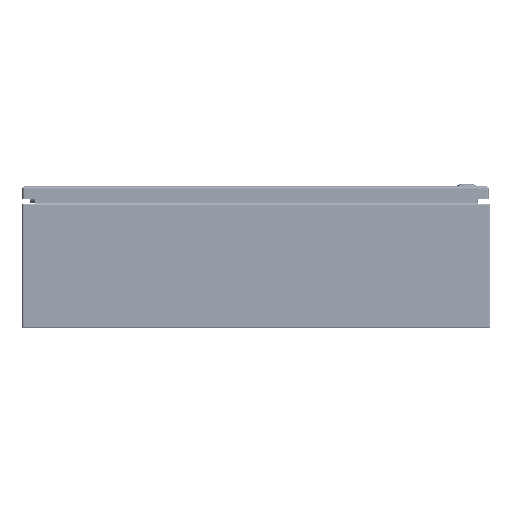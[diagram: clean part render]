
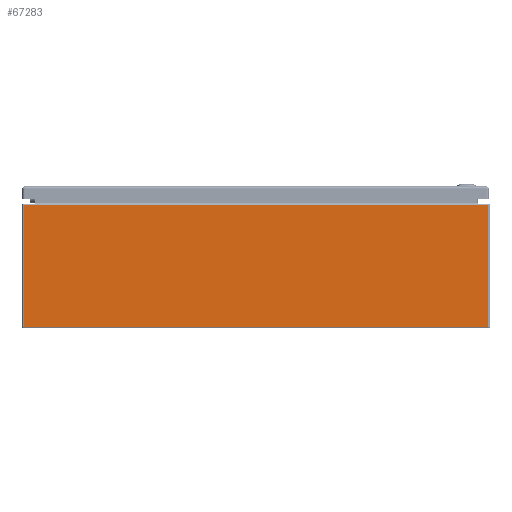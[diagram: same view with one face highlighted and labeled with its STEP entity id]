
A CAD part, front view. The second image highlights one B-rep face of the part: STEP entity #67283.
In plain terms, the highlighted planar face has unit normal (0, -1, 0).
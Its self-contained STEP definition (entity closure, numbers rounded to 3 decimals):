
#6254=LINE('',#95527,#10504);
#6257=LINE('',#95549,#10507);
#6258=LINE('',#95551,#10508);
#6259=LINE('',#95552,#10509);
#10504=VECTOR('',#78724,0.394);
#10507=VECTOR('',#78755,0.394);
#10508=VECTOR('',#78756,0.394);
#10509=VECTOR('',#78757,0.394);
#15865=FACE_OUTER_BOUND('',#20056,.T.);
#20056=EDGE_LOOP('',(#44866,#44867,#44868,#44869));
#27254=VERTEX_POINT('',#95516);
#27257=VERTEX_POINT('',#95526);
#27262=VERTEX_POINT('',#95548);
#27263=VERTEX_POINT('',#95550);
#34026=EDGE_CURVE('',#27254,#27257,#6254,.T.);
#34037=EDGE_CURVE('',#27262,#27254,#6257,.T.);
#34038=EDGE_CURVE('',#27262,#27263,#6258,.T.);
#34039=EDGE_CURVE('',#27257,#27263,#6259,.T.);
#44866=ORIENTED_EDGE('',*,*,#34026,.F.);
#44867=ORIENTED_EDGE('',*,*,#34037,.F.);
#44868=ORIENTED_EDGE('',*,*,#34038,.T.);
#44869=ORIENTED_EDGE('',*,*,#34039,.F.);
#65826=PLANE('',#72376);
#67283=ADVANCED_FACE('',(#15865),#65826,.T.);
#72376=AXIS2_PLACEMENT_3D('',#95547,#78753,#78754);
#78724=DIRECTION('',(1.,0.,0.));
#78753=DIRECTION('center_axis',(0.,-1.,0.));
#78754=DIRECTION('ref_axis',(-1.,0.,0.));
#78755=DIRECTION('',(0.,0.,1.));
#78756=DIRECTION('',(1.,0.,0.));
#78757=DIRECTION('',(0.,0.,-1.));
#95516=CARTESIAN_POINT('',(-14.901,-18.,7.901));
#95526=CARTESIAN_POINT('',(14.901,-18.,7.901));
#95527=CARTESIAN_POINT('',(0.025,-18.,7.901));
#95547=CARTESIAN_POINT('Origin',(15.,-18.,8.));
#95548=CARTESIAN_POINT('',(-14.901,-18.,0.099));
#95549=CARTESIAN_POINT('',(-14.901,-18.,4.));
#95550=CARTESIAN_POINT('',(14.901,-18.,0.099));
#95551=CARTESIAN_POINT('',(-7.451,-18.,0.099));
#95552=CARTESIAN_POINT('',(14.901,-18.,4.));
